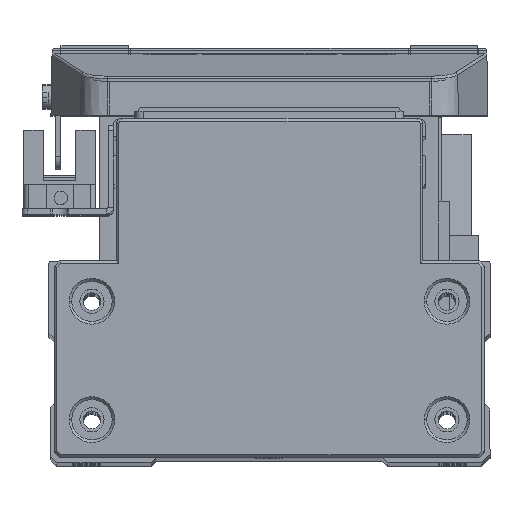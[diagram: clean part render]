
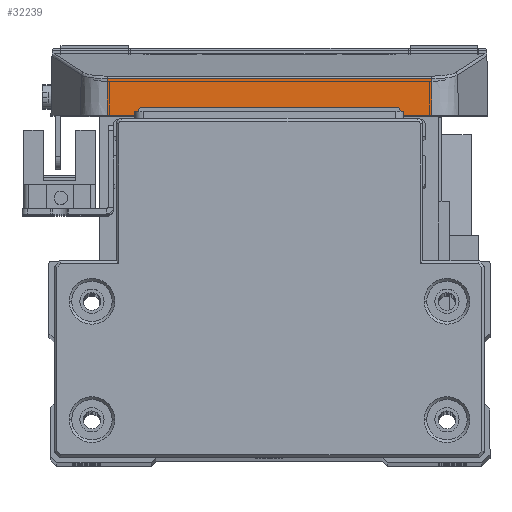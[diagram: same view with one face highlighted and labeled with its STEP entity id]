
A CAD part, top view. The second image highlights one B-rep face of the part: STEP entity #32239.
In plain terms, the highlighted planar face has unit normal (0, 0.018, 1) as drawn and (0, 0.017, -1) by its records, which use the part's own axes.
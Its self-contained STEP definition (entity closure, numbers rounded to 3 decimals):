
#723 = DIRECTION ( 'NONE',  ( -0.574, 0.819, 0.014 ) ) ;
#1028 = CARTESIAN_POINT ( 'NONE',  ( 24.076, 66.178, -289.16 ) ) ;
#1330 = CARTESIAN_POINT ( 'NONE',  ( 2.201, 104.134, -288.497 ) ) ;
#1767 = VECTOR ( 'NONE', #723, 1000. ) ;
#1868 = DIRECTION ( 'NONE',  ( -1., 0., 0. ) ) ;
#1933 = CARTESIAN_POINT ( 'NONE',  ( -24.15, 66.5, -289.154 ) ) ;
#3362 = DIRECTION ( 'NONE',  ( 0., -1., -0.017 ) ) ;
#4022 = LINE ( 'NONE', #8959, #11020 ) ;
#4076 = ORIENTED_EDGE ( 'NONE', *, *, #44115, .T. ) ;
#4273 = VERTEX_POINT ( 'NONE', #42948 ) ;
#4652 = CARTESIAN_POINT ( 'NONE',  ( 29.994, 77.5, -288.962 ) ) ;
#5348 = LINE ( 'NONE', #4652, #28458 ) ;
#5508 = DIRECTION ( 'NONE',  ( -1., 0., 0. ) ) ;
#5958 = CARTESIAN_POINT ( 'NONE',  ( 40.25, 65., -289.18 ) ) ;
#6628 = DIRECTION ( 'NONE',  ( -1., 0., 0. ) ) ;
#7493 = VERTEX_POINT ( 'NONE', #12385 ) ;
#7534 = ORIENTED_EDGE ( 'NONE', *, *, #38575, .T. ) ;
#7782 = AXIS2_PLACEMENT_3D ( 'NONE', #30328, #44278, #13189 ) ;
#7810 = CARTESIAN_POINT ( 'NONE',  ( 23.85, 66.5, -289.154 ) ) ;
#8803 = CARTESIAN_POINT ( 'NONE',  ( 40.25, 65., -289.18 ) ) ;
#8955 = VERTEX_POINT ( 'NONE', #7810 ) ;
#8959 = CARTESIAN_POINT ( 'NONE',  ( 40.25, 71.808, -289.061 ) ) ;
#9207 = VECTOR ( 'NONE', #1868, 1000. ) ;
#9220 = FACE_OUTER_BOUND ( 'NONE', #16640, .T. ) ;
#9522 = VECTOR ( 'NONE', #6628, 1000. ) ;
#9588 = ORIENTED_EDGE ( 'NONE', *, *, #15268, .F. ) ;
#10007 = LINE ( 'NONE', #5958, #27191 ) ;
#10471 = VERTEX_POINT ( 'NONE', #25523 ) ;
#11020 = VECTOR ( 'NONE', #12714, 1000. ) ;
#11473 = EDGE_CURVE ( 'NONE', #27932, #8955, #42072, .T. ) ;
#11721 = VERTEX_POINT ( 'NONE', #12484 ) ;
#11723 = DIRECTION ( 'NONE',  ( -0.574, -0.819, -0.014 ) ) ;
#12385 = CARTESIAN_POINT ( 'NONE',  ( -30.294, 71.808, -289.061 ) ) ;
#12484 = CARTESIAN_POINT ( 'NONE',  ( -30.294, 65., -289.18 ) ) ;
#12714 = DIRECTION ( 'NONE',  ( 1., 0., 0. ) ) ;
#12926 = LINE ( 'NONE', #8803, #9207 ) ;
#13189 = DIRECTION ( 'NONE',  ( 0., 1., 0.017 ) ) ;
#13506 = VECTOR ( 'NONE', #11723, 1000. ) ;
#15268 = EDGE_CURVE ( 'NONE', #7493, #11721, #39061, .T. ) ;
#16580 = CARTESIAN_POINT ( 'NONE',  ( 40.25, 66.5, -289.154 ) ) ;
#16640 = EDGE_LOOP ( 'NONE', ( #9588, #33050, #35975, #35012, #20376, #7534, #4076, #28495 ) ) ;
#20376 = ORIENTED_EDGE ( 'NONE', *, *, #11473, .T. ) ;
#22050 = VERTEX_POINT ( 'NONE', #25053 ) ;
#25053 = CARTESIAN_POINT ( 'NONE',  ( -25.2, 65., -289.18 ) ) ;
#25523 = CARTESIAN_POINT ( 'NONE',  ( 29.994, 71.808, -289.061 ) ) ;
#26144 = EDGE_CURVE ( 'NONE', #10471, #4273, #5348, .T. ) ;
#27191 = VECTOR ( 'NONE', #5508, 1000. ) ;
#27932 = VERTEX_POINT ( 'NONE', #30469 ) ;
#28037 = CARTESIAN_POINT ( 'NONE',  ( -30.294, 77.5, -288.962 ) ) ;
#28458 = VECTOR ( 'NONE', #32422, 1000. ) ;
#28495 = ORIENTED_EDGE ( 'NONE', *, *, #36092, .T. ) ;
#30328 = CARTESIAN_POINT ( 'NONE',  ( 40.25, 77.5, -288.962 ) ) ;
#30469 = CARTESIAN_POINT ( 'NONE',  ( 24.9, 65., -289.18 ) ) ;
#32029 = LINE ( 'NONE', #16580, #9522 ) ;
#32239 = ADVANCED_FACE ( 'NONE', ( #9220 ), #40656, .T. ) ;
#32422 = DIRECTION ( 'NONE',  ( 0., -1., -0.017 ) ) ;
#32783 = EDGE_CURVE ( 'NONE', #7493, #10471, #4022, .T. ) ;
#32847 = EDGE_CURVE ( 'NONE', #4273, #27932, #10007, .T. ) ;
#33050 = ORIENTED_EDGE ( 'NONE', *, *, #32783, .T. ) ;
#35012 = ORIENTED_EDGE ( 'NONE', *, *, #32847, .T. ) ;
#35975 = ORIENTED_EDGE ( 'NONE', *, *, #26144, .T. ) ;
#36092 = EDGE_CURVE ( 'NONE', #22050, #11721, #12926, .T. ) ;
#36921 = VECTOR ( 'NONE', #3362, 1000. ) ;
#38575 = EDGE_CURVE ( 'NONE', #8955, #41477, #32029, .T. ) ;
#39061 = LINE ( 'NONE', #28037, #36921 ) ;
#40656 = PLANE ( 'NONE',  #7782 ) ;
#41477 = VERTEX_POINT ( 'NONE', #1933 ) ;
#42072 = LINE ( 'NONE', #1028, #1767 ) ;
#42522 = LINE ( 'NONE', #1330, #13506 ) ;
#42948 = CARTESIAN_POINT ( 'NONE',  ( 29.994, 65., -289.18 ) ) ;
#44115 = EDGE_CURVE ( 'NONE', #41477, #22050, #42522, .T. ) ;
#44278 = DIRECTION ( 'NONE',  ( 0., 0.017, -1. ) ) ;
